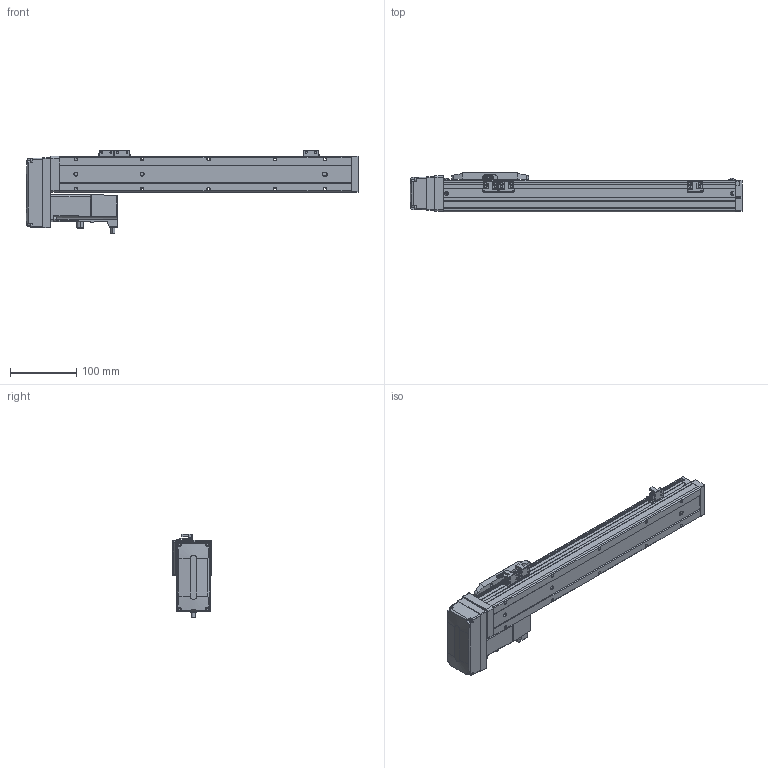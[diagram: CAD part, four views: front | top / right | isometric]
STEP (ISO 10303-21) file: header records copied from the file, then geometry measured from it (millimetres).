
FILE_DESCRIPTION (( 'STEP AP203' ), '1' );
FILE_NAME ('CTH5-L10-S300-BR-C10(¼ò).STEP', '2023-02-04T02:29:29', ( '' ), ( '' ), 'SwSTEP 2.0', 'SolidWorks 2018', '' );
FILE_SCHEMA (( 'CONFIG_CONTROL_DESIGN' ));
Length unit declared in the file: millimetre
Products named in the file (22): 100W萇儂; CTH5-L10-S300-BR-C10(潠); hex nuts, style 1-grades ab gb_GB_FASTENER_NUT_SNAB1 M3-N; CTH5耜蚾蟀諉啣(潠); CTH5-BL-T10_body5; 葩璃 蚾饜极16^CTH5-L10-S300-BR-C10(潠); M3｡｣; PM-Y45; CTH100W假蚾啣; CTH5菁釱-L440; CTH5耜晚蹟隊; CTH5耜晚蹟隊-1; 内六角圆柱头螺钉M3-2; CTH5覜茼え; CTH5耜蚾欶; CTH嫖萇羲壽假蚾啣; T10-p1; CTH5綴耜啣; 葩璃 蚾饜极13^CTH8-L10-S50-BM-C40(潠)1; 嫖萇羲壽郪磁1; CTH5ヶ耜啣(潠); CTH5賑怢
Assembly tree (37 placements, depth 4):
  CTH5-L10-S300-BR-C10(潠)
    CTH5綴耜啣
    CTH5賑怢
    CTH5ヶ耜啣(潠)
    CTH5菁釱-L440
    CTH5耜晚蹟隊  x2
    嫖萇羲壽郪磁1  x2
      CTH嫖萇羲壽假蚾啣
      PM-Y45
      M3｡｣
      内六角圆柱头螺钉M3-2
      hex nuts, style 1-grades ab gb_GB_FASTENER_NUT_SNAB1 M3-N
    CTH5覜茼え
    葩璃 蚾饜极13^CTH8-L10-S50-BM-C40(潠)1
      CTH嫖萇羲壽假蚾啣
      PM-Y45
      内六角圆柱头螺钉M3-2  x2
      M3｡｣  x2
      hex nuts, style 1-grades ab gb_GB_FASTENER_NUT_SNAB1 M3-N  x2
    CTH5耜晚蹟隊-1  x4
    葩璃 蚾饜极16^CTH5-L10-S300-BR-C10(潠)
      CTH5耜蚾蟀諉啣(潠)
      CTH5耜蚾欶
        CTH5-BL-T10_body5
      100W萇儂
        T10-p1
      CTH100W假蚾啣
Bounding box: 500 x 60 x 126.31 mm (x, y, z)
Volume: 1351910.5 mm3; surface area: 209845 mm2
Topology: 39 solids, 39 shells, 1583 faces, 3965 edges, 2564 vertices
Faces by surface type: plane 890, cylinder 460, cone 175, torus 40, bspline 18
Entity records: 36667 total; most frequent: CARTESIAN_POINT 6788, DIRECTION 5769, ORIENTED_EDGE 5554, EDGE_CURVE 2777, AXIS2_PLACEMENT_3D 1976, LINE 1817, VECTOR 1817, VERTEX_POINT 1792
